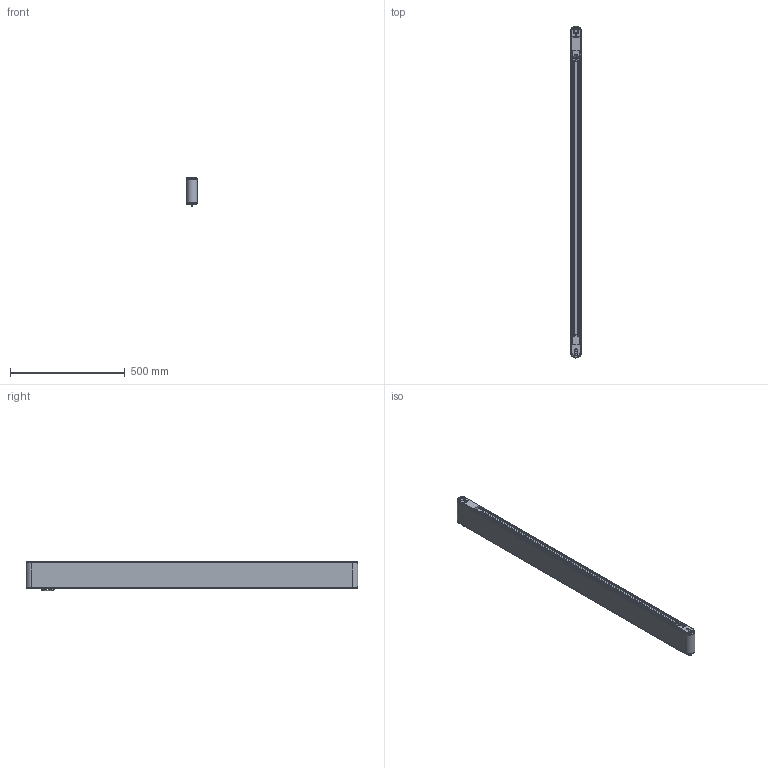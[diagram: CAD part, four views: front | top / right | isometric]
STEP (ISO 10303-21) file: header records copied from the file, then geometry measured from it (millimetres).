
FILE_DESCRIPTION(/* description */ (''),/* implementation_level */ '2;1');
FILE_NAME(/* name */ 'G:\DATEN\CAD\Förderband\Marketing\3D-Modelle (Standard)\FR-40-120\FR-40-120-1400-K.stp',/* time_stamp */ '2019-05-08T08:37:29+02:00',/* author */ ('melanie.ochs'),/* organization */ (''),/* preprocessor_version */ 'ST-DEVELOPER v17',/* originating_system */ 'Autodesk Inventor 2019',/* authorisation */ '');
FILE_SCHEMA (('CONFIG_CONTROL_DESIGN','PROCESS_PLANNING_SCHEMA'));
Length unit declared in the file: centimetre
Products named in the file (1): FR-40-120-1400-K
Bounding box: 46.6 x 1446.6 x 128.53 mm (x, y, z)
Volume: 2484226.5 mm3; surface area: 1442009.2 mm2
Topology: 6 solids, 29 shells, 1047 faces, 2914 edges, 1959 vertices
Faces by surface type: plane 533, cylinder 291, bspline 122, cone 76, torus 25
Full cylindrical faces by diameter (mm): 2 x2, 4 x6, 4.3 x4, 4.64 x2, 4.917 x3, 5 x11, 5.5 x8, 6 x6, 6.5 x1, 6.647 x3, 8 x4, 8.3 x10, 8.5 x8, 8.773 x1, 10 x1, 11 x1, 12 x4, 15 x4, 20 x4, 25 x2, 28 x4
Entity records: 36320 total; most frequent: CARTESIAN_POINT 8554, ORIENTED_EDGE 5804, DIRECTION 5261, EDGE_CURVE 2902, VERTEX_POINT 1959, AXIS2_PLACEMENT_3D 1832, LINE 1597, VECTOR 1597
